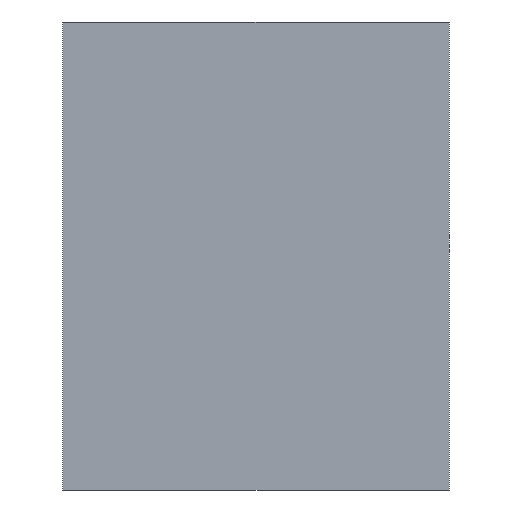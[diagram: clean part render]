
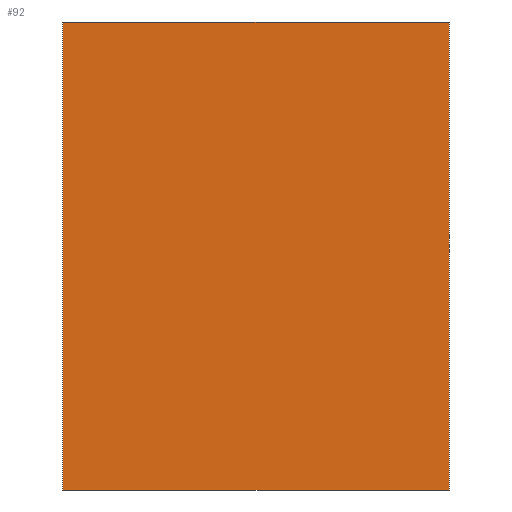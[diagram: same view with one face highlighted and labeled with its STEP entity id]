
A CAD part, top view. The second image highlights one B-rep face of the part: STEP entity #92.
In plain terms, the highlighted planar face has unit normal (0, 0, 1).
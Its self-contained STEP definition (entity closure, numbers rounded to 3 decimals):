
#53=CARTESIAN_POINT('Axis2P3D Location',(0.,0.,0.)) ;
#58=CARTESIAN_POINT('Line Origine',(47.5,0.,0.)) ;
#62=CARTESIAN_POINT('Vertex',(0.,0.,0.)) ;
#64=CARTESIAN_POINT('Vertex',(95.,0.,0.)) ;
#67=CARTESIAN_POINT('Line Origine',(95.,57.5,0.)) ;
#71=CARTESIAN_POINT('Vertex',(95.,115.,0.)) ;
#74=CARTESIAN_POINT('Line Origine',(47.5,115.,0.)) ;
#78=CARTESIAN_POINT('Vertex',(0.,115.,0.)) ;
#81=CARTESIAN_POINT('Line Origine',(0.,57.5,0.)) ;
#54=DIRECTION('Axis2P3D Direction',(0.,0.,1.)) ;
#55=DIRECTION('Axis2P3D XDirection',(1.,0.,0.)) ;
#59=DIRECTION('Vector Direction',(1.,0.,0.)) ;
#68=DIRECTION('Vector Direction',(0.,1.,0.)) ;
#75=DIRECTION('Vector Direction',(-1.,0.,0.)) ;
#82=DIRECTION('Vector Direction',(0.,-1.,0.)) ;
#56=AXIS2_PLACEMENT_3D('Plane Axis2P3D',#53,#54,#55) ;
#87=ORIENTED_EDGE('',*,*,#66,.T.) ;
#88=ORIENTED_EDGE('',*,*,#73,.T.) ;
#89=ORIENTED_EDGE('',*,*,#80,.T.) ;
#90=ORIENTED_EDGE('',*,*,#85,.T.) ;
#60=VECTOR('Line Direction',#59,1.) ;
#69=VECTOR('Line Direction',#68,1.) ;
#76=VECTOR('Line Direction',#75,1.) ;
#83=VECTOR('Line Direction',#82,1.) ;
#92=ADVANCED_FACE('Fill.1',(#91),#57,.T.) ;
#66=EDGE_CURVE('',#63,#65,#61,.T.) ;
#73=EDGE_CURVE('',#65,#72,#70,.T.) ;
#80=EDGE_CURVE('',#72,#79,#77,.T.) ;
#85=EDGE_CURVE('',#79,#63,#84,.T.) ;
#86=EDGE_LOOP('',(#87,#88,#89,#90)) ;
#91=FACE_OUTER_BOUND('',#86,.T.) ;
#61=LINE('Line',#58,#60) ;
#70=LINE('Line',#67,#69) ;
#77=LINE('Line',#74,#76) ;
#84=LINE('Line',#81,#83) ;
#57=PLANE('',#56) ;
#63=VERTEX_POINT('',#62) ;
#65=VERTEX_POINT('',#64) ;
#72=VERTEX_POINT('',#71) ;
#79=VERTEX_POINT('',#78) ;
